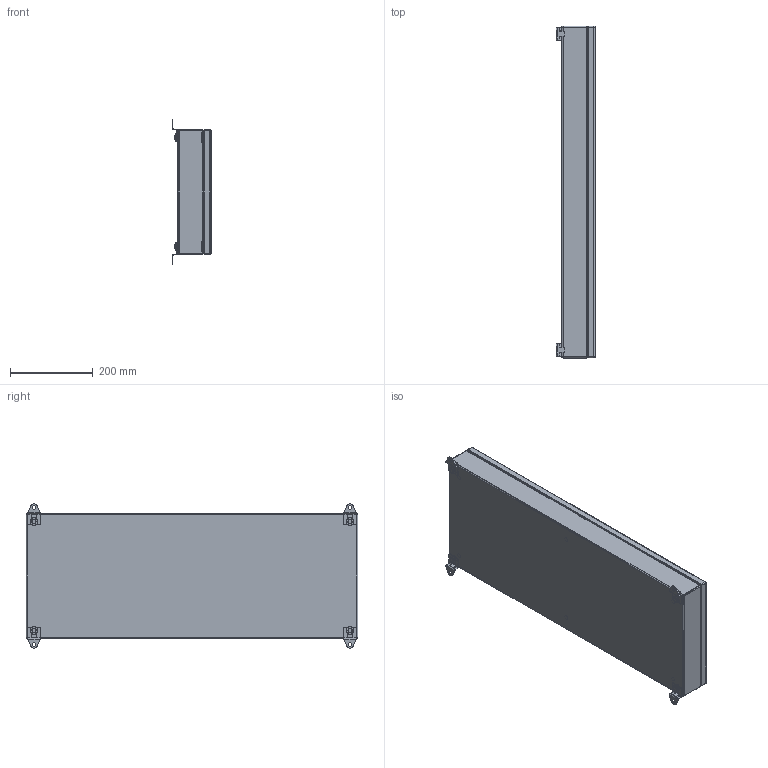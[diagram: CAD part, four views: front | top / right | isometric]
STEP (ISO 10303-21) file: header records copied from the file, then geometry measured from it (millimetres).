
FILE_DESCRIPTION(('STEP AP242'), '1');
FILE_NAME('ÊÊ Êîðîáêà êëåììíàÿ', '', ('UNSPECIFIED'), ('UNSPECIFIED'), 'C3D Converter', 'C3D Toolkit', '');
FILE_SCHEMA(('AP242_MANAGED_MODEL_BASED_3D_ENGINEERING_MIM_LF { 1 0 10303 442 1 1 4 }'));
Length unit declared in the file: millimetre
Products named in the file (24): КК; 510; 520; 521; 530; 531; 530.01; 531.01; 540; 541; 203-0655.61; НК.КК; 551;  202-1103.15-00530; 501
Assembly tree (71 placements, depth 4):
  КК
    510
      520
        521
        (unnamed)
        (unnamed)  x6
      530  x4
        531
        (unnamed)
      530.01  x2
        531.01
        (unnamed)
    540
      541
      (unnamed)
      203-0655.61  x6
    НК.КК  x4
      551
      (unnamed)
      (unnamed)
      (unnamed)
      (unnamed)
      (unnamed)
     202-1103.15-00530  x6
    501
    (unnamed)  x6
    (unnamed)  x6
    (unnamed)  x6
    (unnamed)  x6
Bounding box: 95.19 x 800 x 348 mm (x, y, z)
Volume: 1616006 mm3; surface area: 1933398.5 mm2
Topology: 88 solids, 88 shells, 1424 faces, 3250 edges, 2008 vertices
Faces by surface type: plane 828, cylinder 364, cone 140, torus 52, sphere 24, bspline 16
Full cylindrical faces by diameter (mm): 4 x6, 4.134 x6, 4.917 x10, 5 x6, 5.2 x12, 5.8 x6, 6 x12, 6.4 x12, 6.5 x8, 6.6 x6, 6.647 x6, 8 x4, 9 x4, 11 x4, 11.5 x4, 12 x6, 18 x8
Entity records: 21259 total; most frequent: CARTESIAN_POINT 7235, DIRECTION 2485, ORIENTED_EDGE 2196, EDGE_CURVE 1098, AXIS2_PLACEMENT_3D 913, VERTEX_POINT 715, LINE 659, VECTOR 659
